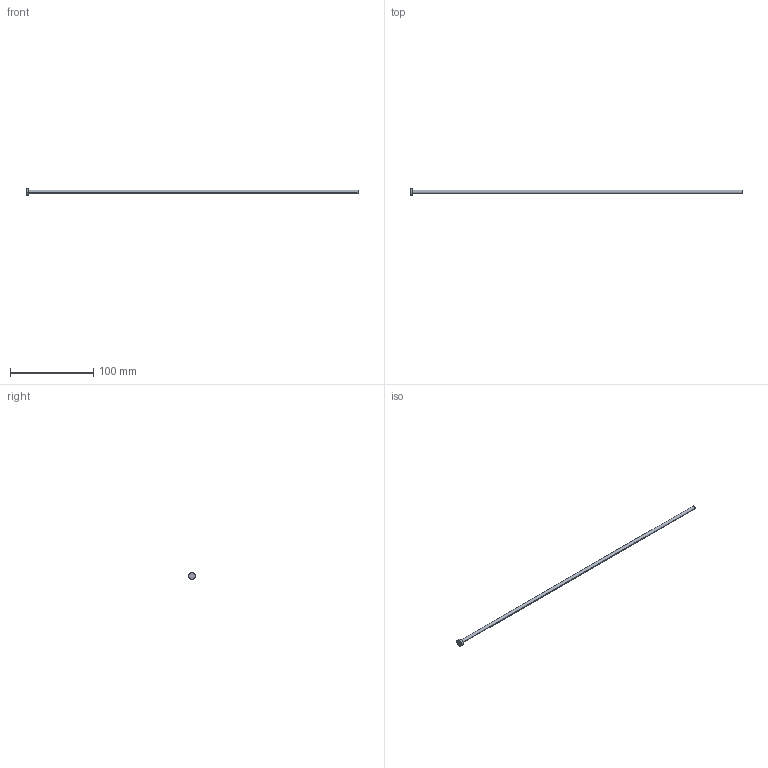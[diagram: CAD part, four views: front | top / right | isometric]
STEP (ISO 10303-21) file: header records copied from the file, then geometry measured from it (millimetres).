
FILE_DESCRIPTION (( 'STEP AP214' ), '1' );
FILE_NAME ('A-4,2x400.STEP', '2020-05-29T10:23:46', ( 'August' ), ( '' ), 'SwSTEP 2.0', 'SolidWorks 2018', '' );
FILE_SCHEMA (( 'AUTOMOTIVE_DESIGN' ));
Length unit declared in the file: millimetre
Products named in the file (1): A-4,2x400
Bounding box: 400 x 8 x 8 mm (x, y, z)
Volume: 5651.3 mm3; surface area: 5412.6 mm2
Topology: 1 solids, 1 shells, 9 faces, 16 edges, 10 vertices
Faces by surface type: cylinder 4, plane 3, torus 2
Entity records: 260 total; most frequent: DIRECTION 48, CARTESIAN_POINT 36, ORIENTED_EDGE 32, AXIS2_PLACEMENT_3D 22, EDGE_CURVE 16, CIRCLE 12, EDGE_LOOP 10, VERTEX_POINT 10
